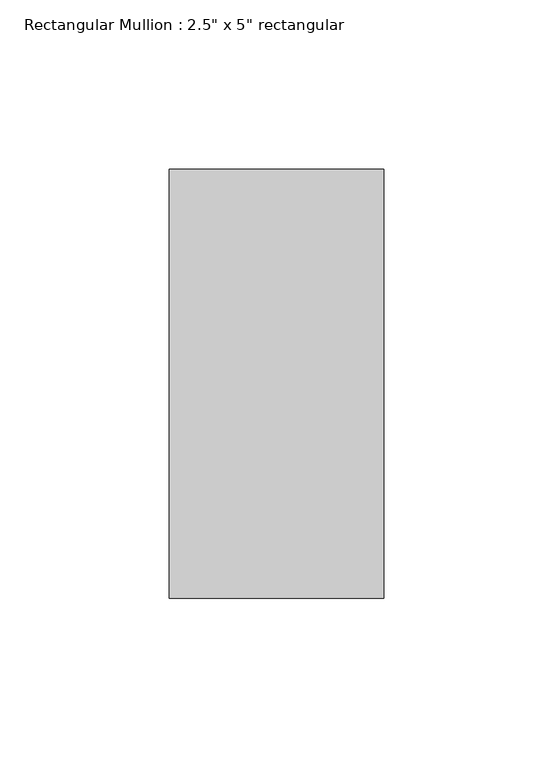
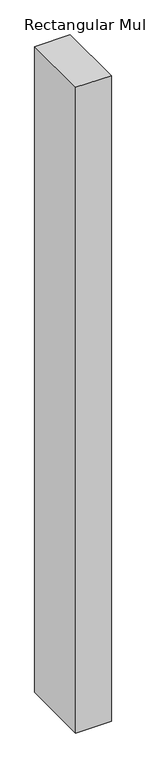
"""IFC4 building model written with IfcOpenShell, lengths in millimetres: member geometry."""

from ifc_helpers import new_model, si_unit, frame, origin, place, context, project, spatial, polyline, outline, extrude, source, transform, mapped, element, save


def member_75074519(model_context):
    return source(origin(), model_context, "Body", "SweptSolid", [
        extrude(outline(polyline([(0.0, 63.5), (0.0, -63.5), (-63.5, -63.5), (-63.5, 63.5), (0.0, 63.5)])), frame((0.0, 0.0, -1219.2), z_axis=(0.0, 0.0, 1.0), x_axis=(1.0, 0.0, 0.0)), (0.0, 0.0, 1.0), 1219.2),
    ])


if __name__ == "__main__":
    model = new_model("IFC4")
    model_context = context("Model", 3, world=origin())
    ifc_project = project(units=[si_unit("LENGTHUNIT", "METRE", prefix="MILLI")], contexts=[model_context])
    site = spatial("IfcSite", under=ifc_project)
    building = spatial("IfcBuilding", under=site)
    placement = place(None, origin())
    member_shape = member_75074519(model_context)
    element("IfcMember", 1, ObjectType="Rectangular Mullion : 2.5\" x 5\" rectangular", at=placement, inside=building, context=model_context, shape_type="MappedRepresentation", body=[
        mapped(member_shape, transform((0.0, 0.0, 0.0), x_axis=(1.0, 0.0, 0.0), y_axis=(0.0, 1.0, 0.0), z_axis=(0.0, 0.0, 1.0))),
    ])
    save(model, "model.ifc")
